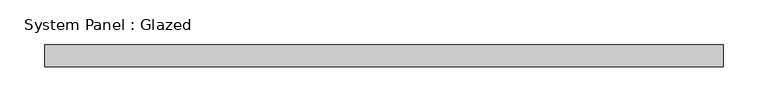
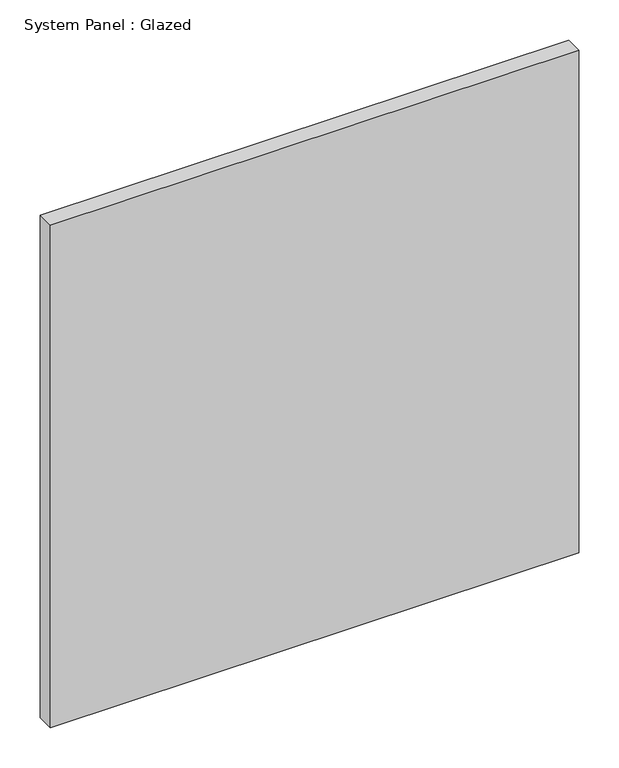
"""IFC4 building model written with IfcOpenShell, lengths in millimetres: plate geometry, System Panel : Glazed."""

from ifc_helpers import new_model, si_unit, origin, origin_with_axes, place, context, project, spatial, polyline, outline, extrude, source, transform, mapped, element, save


def system_panel_glazed_25410d68(model_context):
    return source(origin(), model_context, "Body", "SweptSolid", [
        extrude(outline(polyline([(380.3077389, 24.5), (-380.3077389, 24.5), (-380.3077389, 49.5), (380.3077389, 49.5), (380.3077389, 24.5)])), origin_with_axes(), (0.0, 0.0, 1.0), 765.0),
    ])


if __name__ == "__main__":
    model = new_model("IFC4")
    model_context = context("Model", 3, world=origin())
    ifc_project = project(units=[si_unit("LENGTHUNIT", "METRE", prefix="MILLI")], contexts=[model_context])
    site = spatial("IfcSite", under=ifc_project)
    building = spatial("IfcBuilding", under=site)
    placement = place(None, origin())
    system_panel_glazed_shape = system_panel_glazed_25410d68(model_context)
    element("IfcPlate", 1, ObjectType="System Panel : Glazed", at=placement, inside=building, context=model_context, shape_type="MappedRepresentation", body=[
        mapped(system_panel_glazed_shape, transform((0.0, 0.0, 0.0), x_axis=(1.0, 0.0, 0.0), y_axis=(0.0, 1.0, 0.0), z_axis=(0.0, 0.0, 1.0))),
    ])
    save(model, "model.ifc")
